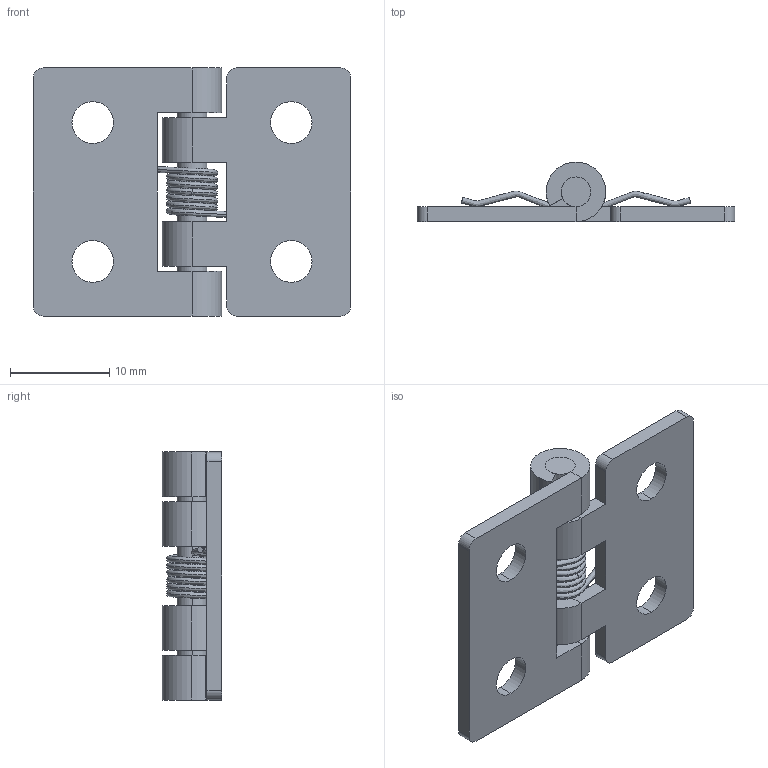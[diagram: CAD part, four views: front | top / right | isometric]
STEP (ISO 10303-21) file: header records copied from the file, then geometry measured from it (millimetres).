
FILE_DESCRIPTION (( 'STEP AP214' ), '1' );
FILE_NAME ('SK2-049-6.STEP', '2020-04-14T07:01:26', ( 'admin' ), ( 'Microsoft' ), 'SwSTEP 2.0', 'SolidWorks 2018', '' );
FILE_SCHEMA (( 'AUTOMOTIVE_DESIGN' ));
Length unit declared in the file: millimetre
Products named in the file (5): 2-049-6-F4; 2-049-6-F3; 2-049-6-F2; 2-049-6-F1; SK2-049-6
Assembly tree (4 placements, depth 2):
  SK2-049-6
    2-049-6-F1
    2-049-6-F2
    2-049-6-F3
    2-049-6-F4
Bounding box: 32 x 6 x 25 mm (x, y, z)
Volume: 1470.8 mm3; surface area: 2626 mm2
Topology: 5 solids, 5 shells, 82 faces, 200 edges, 128 vertices
Faces by surface type: cylinder 40, plane 38, bspline 4
Entity records: 8407 total; most frequent: CARTESIAN_POINT 6201, DIRECTION 454, ORIENTED_EDGE 400, EDGE_CURVE 200, AXIS2_PLACEMENT_3D 173, VERTEX_POINT 128, LINE 108, VECTOR 108
